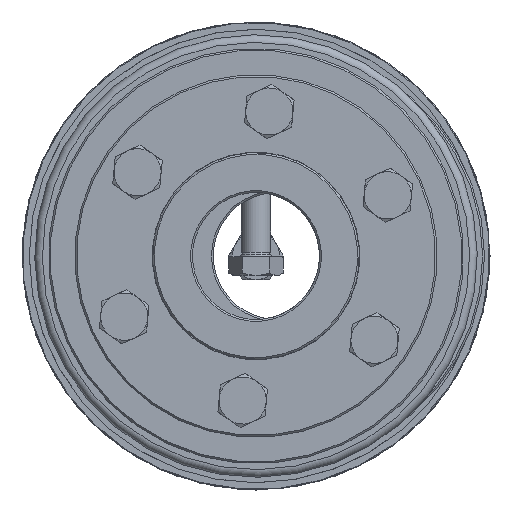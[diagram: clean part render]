
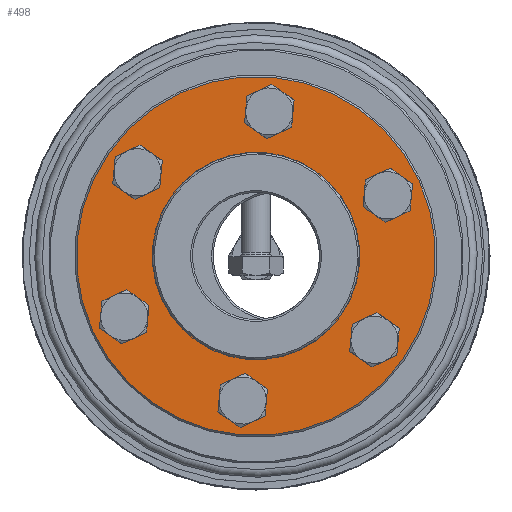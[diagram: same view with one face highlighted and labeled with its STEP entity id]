
A CAD part, left-side view. The second image highlights one B-rep face of the part: STEP entity #498.
In plain terms, the highlighted planar face has unit normal (-1, 0, 0).
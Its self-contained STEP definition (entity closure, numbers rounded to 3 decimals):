
#498 = ADVANCED_FACE( 'NONE', ( #867, #868, #869, #870, #871, #872, #873, #874 ), #875, .F. );
#867 = FACE_OUTER_BOUND( '', #1581, .T. );
#868 = FACE_BOUND( '', #1582, .T. );
#869 = FACE_BOUND( '', #1583, .T. );
#870 = FACE_BOUND( '', #1584, .T. );
#871 = FACE_BOUND( '', #1585, .T. );
#872 = FACE_BOUND( '', #1586, .T. );
#873 = FACE_BOUND( '', #1587, .T. );
#874 = FACE_BOUND( '', #1588, .T. );
#875 = PLANE( '', #1589 );
#1581 = EDGE_LOOP( '', ( #2326 ) );
#1582 = EDGE_LOOP( '', ( #2327 ) );
#1583 = EDGE_LOOP( '', ( #2328 ) );
#1584 = EDGE_LOOP( '', ( #2329 ) );
#1585 = EDGE_LOOP( '', ( #2330 ) );
#1586 = EDGE_LOOP( '', ( #2331 ) );
#1587 = EDGE_LOOP( '', ( #2332 ) );
#1588 = EDGE_LOOP( '', ( #2333 ) );
#1589 = AXIS2_PLACEMENT_3D( '', #2334, #2335, #2336 );
#2326 = ORIENTED_EDGE( '', *, *, #3674, .T. );
#2327 = ORIENTED_EDGE( '', *, *, #3675, .T. );
#2328 = ORIENTED_EDGE( '', *, *, #3676, .T. );
#2329 = ORIENTED_EDGE( '', *, *, #3677, .T. );
#2330 = ORIENTED_EDGE( '', *, *, #3673, .T. );
#2331 = ORIENTED_EDGE( '', *, *, #3678, .T. );
#2332 = ORIENTED_EDGE( '', *, *, #3664, .T. );
#2333 = ORIENTED_EDGE( '', *, *, #3672, .F. );
#2334 = CARTESIAN_POINT( '', ( 0., 28.5, 0. ) );
#2335 = DIRECTION( '', ( 1., 0., 0. ) );
#2336 = DIRECTION( '', ( 0., 1., 0. ) );
#3664 = EDGE_CURVE( 'NONE', #4002, #4002, #4003, .T. );
#3672 = EDGE_CURVE( 'NONE', #4018, #4018, #4019, .T. );
#3673 = EDGE_CURVE( 'NONE', #4020, #4020, #4021, .T. );
#3674 = EDGE_CURVE( 'NONE', #4022, #4022, #4023, .T. );
#3675 = EDGE_CURVE( 'NONE', #4024, #4024, #4025, .T. );
#3676 = EDGE_CURVE( 'NONE', #4026, #4026, #4027, .T. );
#3677 = EDGE_CURVE( 'NONE', #4028, #4028, #4029, .T. );
#3678 = EDGE_CURVE( 'NONE', #4030, #4030, #4031, .T. );
#4002 = VERTEX_POINT( '', #4560 );
#4003 = CIRCLE( '', #4561, 4.5 );
#4018 = VERTEX_POINT( '', #4576 );
#4019 = CIRCLE( '', #4577, 28.5 );
#4020 = VERTEX_POINT( '', #4578 );
#4021 = CIRCLE( '', #4579, 4.5 );
#4022 = VERTEX_POINT( '', #4580 );
#4023 = CIRCLE( '', #4581, 49.5 );
#4024 = VERTEX_POINT( '', #4582 );
#4025 = CIRCLE( '', #4583, 4.5 );
#4026 = VERTEX_POINT( '', #4584 );
#4027 = CIRCLE( '', #4585, 4.5 );
#4028 = VERTEX_POINT( '', #4586 );
#4029 = CIRCLE( '', #4587, 4.5 );
#4030 = VERTEX_POINT( '', #4588 );
#4031 = CIRCLE( '', #4589, 4.5 );
#4560 = CARTESIAN_POINT( '', ( 0., 40., -4.5 ) );
#4561 = AXIS2_PLACEMENT_3D( '', #5584, #5585, #5586 );
#4576 = CARTESIAN_POINT( '', ( 0., 0., 28.5 ) );
#4577 = AXIS2_PLACEMENT_3D( '', #5608, #5609, #5610 );
#4578 = CARTESIAN_POINT( '', ( 0., -20., -39.141 ) );
#4579 = AXIS2_PLACEMENT_3D( '', #5611, #5612, #5613 );
#4580 = CARTESIAN_POINT( '', ( 0., 0., -49.5 ) );
#4581 = AXIS2_PLACEMENT_3D( '', #5614, #5615, #5616 );
#4582 = CARTESIAN_POINT( '', ( 0., 20., 30.141 ) );
#4583 = AXIS2_PLACEMENT_3D( '', #5617, #5618, #5619 );
#4584 = CARTESIAN_POINT( '', ( 0., -20., 30.141 ) );
#4585 = AXIS2_PLACEMENT_3D( '', #5620, #5621, #5622 );
#4586 = CARTESIAN_POINT( '', ( 0., -40., -4.5 ) );
#4587 = AXIS2_PLACEMENT_3D( '', #5623, #5624, #5625 );
#4588 = CARTESIAN_POINT( '', ( 0., 20., -39.141 ) );
#4589 = AXIS2_PLACEMENT_3D( '', #5626, #5627, #5628 );
#5584 = CARTESIAN_POINT( '', ( 0., 40., 0. ) );
#5585 = DIRECTION( '', ( 1., 0., 0. ) );
#5586 = DIRECTION( '', ( 0., 0., -1. ) );
#5608 = CARTESIAN_POINT( '', ( 0., 0., 0. ) );
#5609 = DIRECTION( '', ( -1., 0., 0. ) );
#5610 = DIRECTION( '', ( 0., 0., 1. ) );
#5611 = CARTESIAN_POINT( '', ( 0., -20., -34.641 ) );
#5612 = DIRECTION( '', ( 1., 0., 0. ) );
#5613 = DIRECTION( '', ( 0., 0., -1. ) );
#5614 = CARTESIAN_POINT( '', ( 0., 0., 0. ) );
#5615 = DIRECTION( '', ( -1., 0., 0. ) );
#5616 = DIRECTION( '', ( 0., 0., -1. ) );
#5617 = CARTESIAN_POINT( '', ( 0., 20., 34.641 ) );
#5618 = DIRECTION( '', ( 1., 0., 0. ) );
#5619 = DIRECTION( '', ( 0., 0., -1. ) );
#5620 = CARTESIAN_POINT( '', ( 0., -20., 34.641 ) );
#5621 = DIRECTION( '', ( 1., 0., 0. ) );
#5622 = DIRECTION( '', ( 0., 0., -1. ) );
#5623 = CARTESIAN_POINT( '', ( 0., -40., 0. ) );
#5624 = DIRECTION( '', ( 1., 0., 0. ) );
#5625 = DIRECTION( '', ( 0., 0., -1. ) );
#5626 = CARTESIAN_POINT( '', ( 0., 20., -34.641 ) );
#5627 = DIRECTION( '', ( 1., 0., 0. ) );
#5628 = DIRECTION( '', ( 0., 0., -1. ) );
